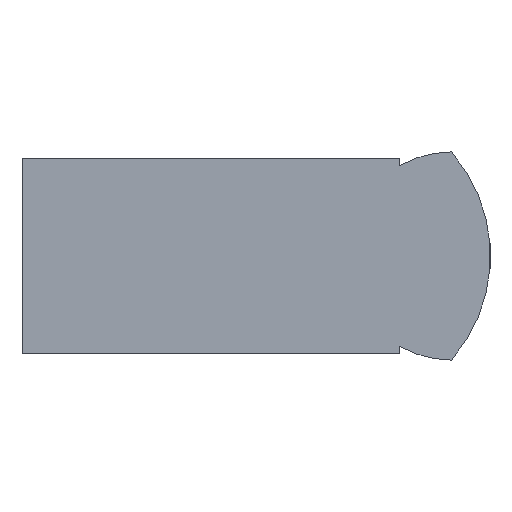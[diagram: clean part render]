
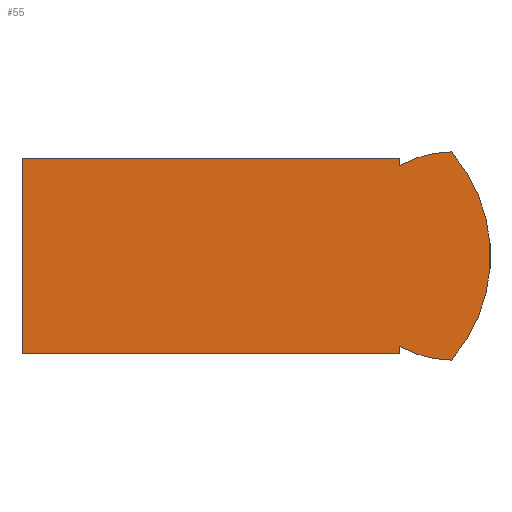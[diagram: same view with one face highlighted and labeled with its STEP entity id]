
A CAD part, left-side view. The second image highlights one B-rep face of the part: STEP entity #55.
In plain terms, the highlighted planar face has unit normal (-1, 0, 0).
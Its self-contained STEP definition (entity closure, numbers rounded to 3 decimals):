
#55 = ADVANCED_FACE( '', ( #120 ), #121, .F. );
#120 = FACE_OUTER_BOUND( '', #195, .T. );
#121 = PLANE( '', #196 );
#195 = EDGE_LOOP( '', ( #288, #289, #290, #291, #292, #293, #294, #295 ) );
#196 = AXIS2_PLACEMENT_3D( '', #296, #297, #298 );
#288 = ORIENTED_EDGE( '', *, *, #448, .F. );
#289 = ORIENTED_EDGE( '', *, *, #435, .T. );
#290 = ORIENTED_EDGE( '', *, *, #449, .T. );
#291 = ORIENTED_EDGE( '', *, *, #450, .F. );
#292 = ORIENTED_EDGE( '', *, *, #451, .F. );
#293 = ORIENTED_EDGE( '', *, *, #452, .T. );
#294 = ORIENTED_EDGE( '', *, *, #453, .F. );
#295 = ORIENTED_EDGE( '', *, *, #454, .F. );
#296 = CARTESIAN_POINT( '', ( -6., -28.416, 0. ) );
#297 = DIRECTION( '', ( 1., 0., 0. ) );
#298 = DIRECTION( '', ( 0., 0., -1. ) );
#435 = EDGE_CURVE( '', #511, #512, #513, .T. );
#448 = EDGE_CURVE( '', #511, #533, #534, .T. );
#449 = EDGE_CURVE( '', #512, #535, #536, .T. );
#450 = EDGE_CURVE( '', #537, #535, #538, .T. );
#451 = EDGE_CURVE( '', #539, #537, #540, .T. );
#452 = EDGE_CURVE( '', #539, #541, #542, .T. );
#453 = EDGE_CURVE( '', #543, #541, #544, .T. );
#454 = EDGE_CURVE( '', #533, #543, #545, .T. );
#511 = VERTEX_POINT( '', #618 );
#512 = VERTEX_POINT( '', #619 );
#513 = LINE( '', #620, #621 );
#533 = VERTEX_POINT( '', #648 );
#534 = CIRCLE( '', #649, 8. );
#535 = VERTEX_POINT( '', #650 );
#536 = LINE( '', #651, #652 );
#537 = VERTEX_POINT( '', #653 );
#538 = LINE( '', #654, #655 );
#539 = VERTEX_POINT( '', #656 );
#540 = LINE( '', #657, #658 );
#541 = VERTEX_POINT( '', #659 );
#542 = LINE( '', #660, #661 );
#543 = VERTEX_POINT( '', #662 );
#544 = CIRCLE( '', #663, 8. );
#545 = CIRCLE( '', #664, 12.167 );
#618 = CARTESIAN_POINT( '', ( -6., -29., 6.928 ) );
#619 = CARTESIAN_POINT( '', ( -6., -29., 7.5 ) );
#620 = CARTESIAN_POINT( '', ( -6., -29., -7.5 ) );
#621 = VECTOR( '', #733, 1000. );
#648 = CARTESIAN_POINT( '', ( -6., -33., 8. ) );
#649 = AXIS2_PLACEMENT_3D( '', #747, #748, #749 );
#650 = CARTESIAN_POINT( '', ( -6., 0., 7.5 ) );
#651 = CARTESIAN_POINT( '', ( -6., -29., 7.5 ) );
#652 = VECTOR( '', #750, 1000. );
#653 = CARTESIAN_POINT( '', ( -6., 0., -7.5 ) );
#654 = CARTESIAN_POINT( '', ( -6., 0., -7.5 ) );
#655 = VECTOR( '', #751, 1000. );
#656 = CARTESIAN_POINT( '', ( -6., -29., -7.5 ) );
#657 = CARTESIAN_POINT( '', ( -6., -29., -7.5 ) );
#658 = VECTOR( '', #752, 1000. );
#659 = CARTESIAN_POINT( '', ( -6., -29., -6.928 ) );
#660 = CARTESIAN_POINT( '', ( -6., -29., -7.5 ) );
#661 = VECTOR( '', #753, 1000. );
#662 = CARTESIAN_POINT( '', ( -6., -33., -8. ) );
#663 = AXIS2_PLACEMENT_3D( '', #754, #755, #756 );
#664 = AXIS2_PLACEMENT_3D( '', #757, #758, #759 );
#733 = DIRECTION( '', ( 0., 0., 1. ) );
#747 = CARTESIAN_POINT( '', ( -6., -33., 0. ) );
#748 = DIRECTION( '', ( 1., 0., 0. ) );
#749 = DIRECTION( '', ( 0., 0., -1. ) );
#750 = DIRECTION( '', ( 0., 1., 0. ) );
#751 = DIRECTION( '', ( 0., 0., 1. ) );
#752 = DIRECTION( '', ( 0., 1., 0. ) );
#753 = DIRECTION( '', ( 0., 0., 1. ) );
#754 = CARTESIAN_POINT( '', ( -6., -33., 0. ) );
#755 = DIRECTION( '', ( 1., 0., 0. ) );
#756 = DIRECTION( '', ( 0., 0., -1. ) );
#757 = CARTESIAN_POINT( '', ( -6., -23.833, 0. ) );
#758 = DIRECTION( '', ( 1., 0., 0. ) );
#759 = DIRECTION( '', ( 0., 0., -1. ) );
